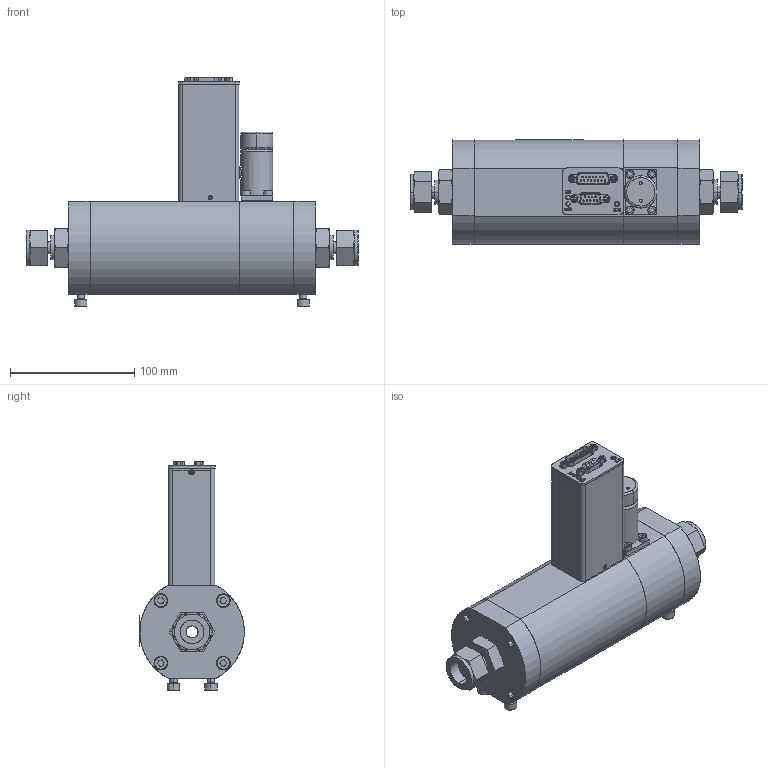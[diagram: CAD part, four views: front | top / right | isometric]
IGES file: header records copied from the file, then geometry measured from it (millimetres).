
Start section: SolidWorks IGES file using analytic representation for surfaces
Global section: file name: G:\Engineering\CAD MODELS FOR SALES\CAD MODEL STORAGE\SLA\SLA5853\IGES\SLA5853-P-2E-2-C-REVB1.IGS; native system: SolidWorks 2017; preprocessor: SolidWorks 2017; author: SBizzarro; date: 181112.131022; units: inch
Bounding box: 266.87 x 84.17 x 184.54 mm (x, y, z)
Surface area: 129709.7 mm2 (no closed solid volume)
Topology: 0 solids, 0 shells, 787 faces, 11201 edges, 11189 vertices
Faces by surface type: revolution 405, bspline 382
